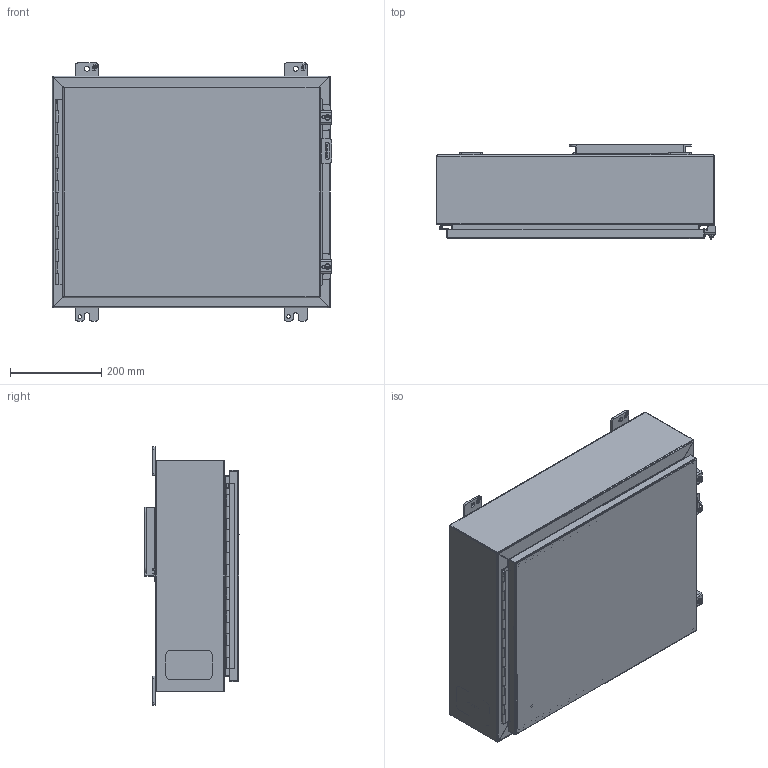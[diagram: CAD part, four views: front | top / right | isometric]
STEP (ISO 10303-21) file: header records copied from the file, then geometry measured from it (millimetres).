
FILE_DESCRIPTION(/* description */ ('Unknown'),/* implementation_level */ '2;1');
FILE_NAME(/* name */ '1418ER6LP',/* time_stamp */ '2026-02-20T16:30:32-05:00',/* author */ ('Unknown'),/* organization */ ('Unknown'),/* preprocessor_version */ 'ST-DEVELOPER v18.104',/* originating_system */ 'Solid Edge',/* authorisation */ 'Unknown');
FILE_SCHEMA (('AUTOMOTIVE_DESIGN {1 0 10303 214 3 1 1}'));
Length unit declared in the file: millimetre
Products named in the file (30): 1418ER6LP; KIT90518; WAF25059; NTS166105; LAB30005; STD26094; STD21878; COM42780; COM40153-1; HNG10620-16B; COM71780-8; COM40153-2; PNT11078; HNG10620-16C; COM70219_oa_0; COM48430; FET07710; AKT90223; SPR20265; SCC19011; WAF25035; COM42667; HNG10620-16P; BUL10020; QLB30109; PKT99; KIT90256; NTS165305; NTS16535
Assembly tree (40 placements, depth 3):
  1418ER6LP
    KIT90518
      WAF25059
      NTS166105
      LAB30005
    STD26094  x4
    STD21878
    COM42780  x2
    COM40153-1
    HNG10620-16B
    COM71780-8
      COM40153-2
      PNT11078
      HNG10620-16C
      COM70219_oa_0
      COM71780-8
      STD21878
    COM48430
    FET07710  x4
    AKT90223  x2
      SPR20265
      SCC19011
      WAF25035
      COM42667
    HNG10620-16P
    BUL10020
    QLB30109
    PKT99
    KIT90256
      LAB30005
      NTS165305
      NTS16535
    PNT11078
Bounding box: 612.77 x 206.38 x 565.15 mm (x, y, z)
Volume: 2312560.7 mm3; surface area: 2465051.6 mm2
Topology: 34 solids, 35 shells, 1157 faces, 2931 edges, 1878 vertices
Faces by surface type: plane 770, cylinder 290, bspline 49, cone 26, torus 20, sphere 2
Full cylindrical faces by diameter (mm): 3.175 x1, 4.763 x1, 4.976 x1, 5.41 x2, 6.198 x2, 6.35 x3, 6.731 x2, 7.137 x2, 7.805 x1, 7.938 x4, 8.382 x4, 9.525 x4, 9.906 x2, 11.113 x4, 11.303 x1, 12.7 x2, 16.51 x4, 25.4 x1, 88.9 x1
Entity records: 28725 total; most frequent: CARTESIAN_POINT 8065, ORIENTED_EDGE 4112, DIRECTION 3887, EDGE_CURVE 2056, LINE 1393, VECTOR 1393, VERTEX_POINT 1321, AXIS2_PLACEMENT_3D 1247
